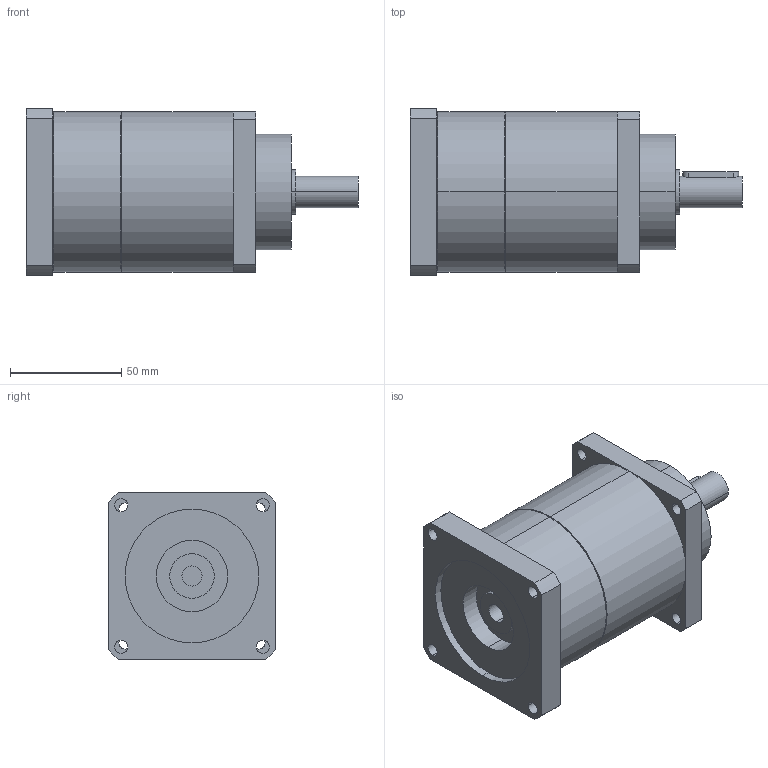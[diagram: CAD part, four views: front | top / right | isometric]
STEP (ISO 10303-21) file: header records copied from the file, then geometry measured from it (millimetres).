
FILE_DESCRIPTION(('CoCreate Modeling STEP Export'),'2;1');
FILE_NAME('GPT75_ig-9-12-16-20-25-28-35-40-50-70-100_14_B5T_9_P15.stp','2014-08-27T13:44:00',(''),(''),'CoCreate Modeling STEP processor for AP214 (Solid Model)','CoCreate Modeling 16.00C 25-Feb-2009 (C) Parametric Technology GmbH','');
FILE_SCHEMA(('AUTOMOTIVE_DESIGN { 1 0 10303 214 1 1 1 1 }'));
Length unit declared in the file: millimetre
Products named in the file (2): GPT75_ig-9-12-16-20-25-28-35-40-50-70-100_14_B5T_9_P15
Assembly tree (1 placements, depth 2):
  GPT75_ig-9-12-16-20-25-28-35-40-50-70-100_14_B5T_9_P15
    GPT75_ig-9-12-16-20-25-28-35-40-50-70-100_14_B5T_9_P15
Bounding box: 149 x 75 x 75 mm (x, y, z)
Volume: 467440.2 mm3; surface area: 46357.8 mm2
Topology: 1 solids, 1 shells, 77 faces, 194 edges, 129 vertices
Faces by surface type: cylinder 46, plane 27, cone 4
Entity records: 2484 total; most frequent: CARTESIAN_POINT 719, ORIENTED_EDGE 388, DIRECTION 320, EDGE_CURVE 194, VERTEX_POINT 129, AXIS2_PLACEMENT_3D 118, EDGE_LOOP 103, VECTOR 84
